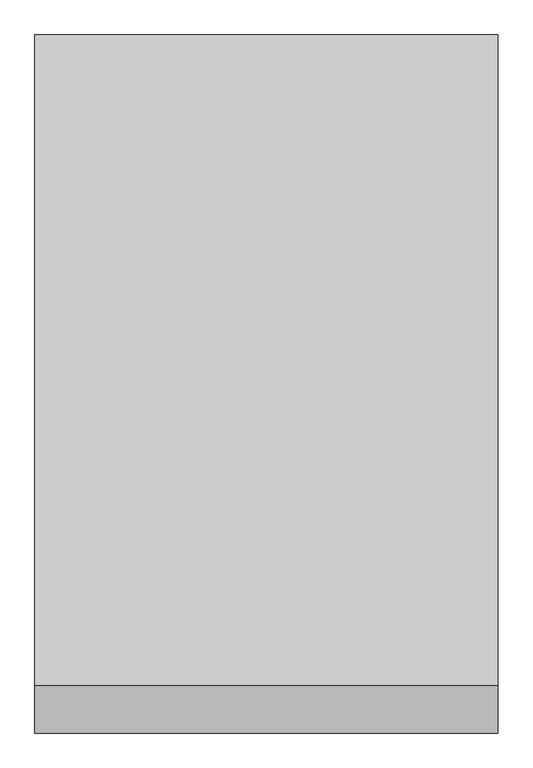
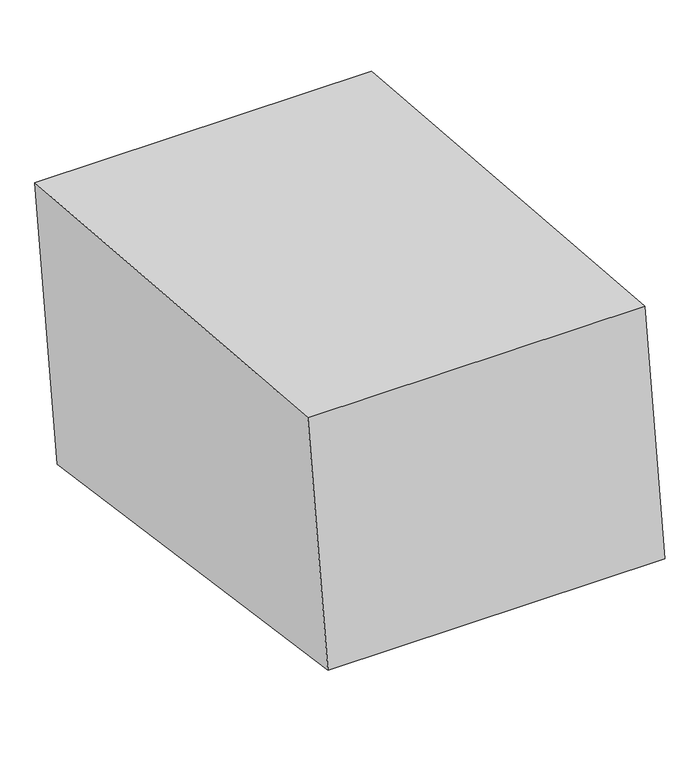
"""IFC4 building model written with IfcOpenShell, lengths in millimetres: proxy geometry, Excavation FamilySP : Excavation FamilySP."""

from ifc_helpers import new_model, si_unit, frame, origin, place, context, project, spatial, polyline, outline, extrude, source, transform, mapped, element, save


def generic_models_86367620(model_context):
    return source(origin(), model_context, "Body", "SweptSolid", [
        extrude(outline(polyline([(350.5223057, 2477.5251592), (0.0, 0.0), (-4242.5772274, 600.2433301), (-3928.004332, 2823.6746213), (350.5223057, 2477.5251592)])), frame((-1524.0, 0.0, 0.0), z_axis=(1.0, 0.0, 0.0), x_axis=(0.0, 1.0, 0.0)), (0.0, 0.0, 1.0), 3048.0),
    ])


if __name__ == "__main__":
    model = new_model("IFC4")
    model_context = context("Model", 3, world=origin())
    ifc_project = project(units=[si_unit("LENGTHUNIT", "METRE", prefix="MILLI")], contexts=[model_context])
    site = spatial("IfcSite", under=ifc_project)
    building = spatial("IfcBuilding", under=site)
    placement = place(None, origin())
    generic_models_shape = generic_models_86367620(model_context)
    element("IfcBuildingElementProxy", 1, Name="Excavation FamilySP : Excavation FamilySP", ObjectType="Excavation FamilySP : Excavation FamilySP", at=placement, inside=building, context=model_context, shape_type="MappedRepresentation", body=[
        mapped(generic_models_shape, transform((0.0, 0.0, 0.0), x_axis=(1.0, 0.0, 0.0), y_axis=(0.0, 1.0, 0.0), z_axis=(0.0, 0.0, 1.0))),
    ])
    save(model, "model.ifc")
